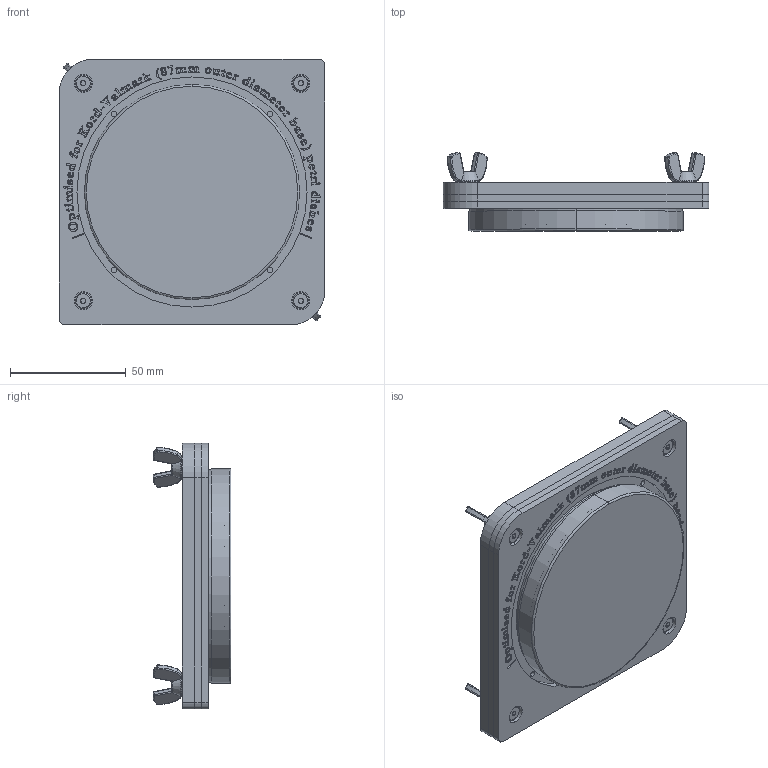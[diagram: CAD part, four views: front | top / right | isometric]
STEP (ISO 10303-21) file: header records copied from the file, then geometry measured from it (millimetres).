
FILE_DESCRIPTION (( 'STEP AP214' ), '1' );
FILE_NAME ('OUT-004-01-03_KORD-VALMARK.STEP', '2020-12-16T19:06:59', ( '' ), ( '' ), 'SwSTEP 2.0', 'SolidWorks 2020', '' );
FILE_SCHEMA (( 'AUTOMOTIVE_DESIGN' ));
Length unit declared in the file: millimetre
Products named in the file (13): OUT-004-01-03_KORD-VALMARK; OUT-004-02-XX_VALMARK_GRID HOLDER; Kord-Valmark Petri Dish; OUT-004-01-02; 91780A193_ALUM FEM THRDED HEX STANDOFF_91780A193; OUT-004-01-01_DEFAULT; Fisher Petri Dish; ACR GLUE^OUT-004-02-00; o-ring^OUT-004-01-XX; 90866A009_ZINC-PLATED STEEL AND IRON WING NUTS_90866A009; OUT-004-02-XX_VALMARK_SPACER; 90665A112_LOW-PROFILE ALLOY STEEL SOCKET HEAD CAP SCREW_90665A112; OUT-004-02-00_Kord-Valmark
Assembly tree (20 placements, depth 3):
  OUT-004-01-03_KORD-VALMARK
    OUT-004-02-00_Kord-Valmark
      OUT-004-02-XX_VALMARK_GRID HOLDER
      OUT-004-02-XX_VALMARK_SPACER
      91780A193_ALUM FEM THRDED HEX STANDOFF_91780A193  x4
      90665A112_LOW-PROFILE ALLOY STEEL SOCKET HEAD CAP SCREW_90665A112  x4
    OUT-004-01-01_DEFAULT
    OUT-004-01-02
    o-ring^OUT-004-01-XX
    90866A009_ZINC-PLATED STEEL AND IRON WING NUTS_90866A009  x4
    Fisher Petri Dish
    Kord-Valmark Petri Dish
  ACR GLUE^OUT-004-02-00
Bounding box: 115 x 33.71 x 115 mm (x, y, z)
Volume: 124830 mm3; surface area: 145918.6 mm2
Topology: 19 solids, 21 shells, 4302 faces, 11734 edges, 7638 vertices
Faces by surface type: bspline 1883, plane 1723, cylinder 426, cone 168, torus 102
Entity records: 167862 total; most frequent: CARTESIAN_POINT 85841, ORIENTED_EDGE 20510, DIRECTION 10399, EDGE_CURVE 10255, VERTEX_POINT 6708, LINE 6027, VECTOR 6027, EDGE_LOOP 3929
